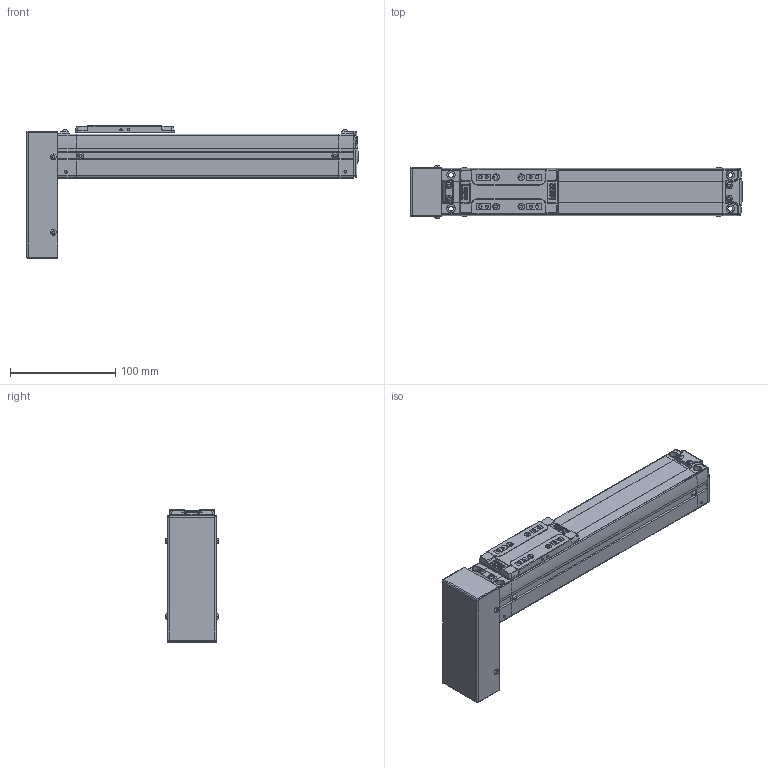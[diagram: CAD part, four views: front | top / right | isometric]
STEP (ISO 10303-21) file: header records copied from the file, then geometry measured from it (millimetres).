
FILE_DESCRIPTION(('STEP AP214'),'1');
FILE_NAME('Z:/Web/3D/SAN45/2013.ver/STP/SAN45-150PB.stp','2013-05-15T00:24:08',(' '),(' '),'Spatial InterOp 3D',' ',' ');
FILE_SCHEMA(('automotive_design'));
Length unit declared in the file: millimetre
Products named in the file (28): BODY-SAN45; REAR-SAN45; RRCV-SAN45; BHCS M3 x 6L; BHCS M3 X 6L; FRONT-SAN45; SHAFT; RN8 x 0.75; SSFX-SAN45; SLIDE-SAN45; SLCV-IM45; FHCS M3 x 6L; BTCV-SAN45
Bounding box: 316.15 x 51.13 x 126 mm (x, y, z)
Volume: 687179.9 mm3; surface area: 122071.1 mm2
Topology: 28 solids, 28 shells, 1692 faces, 4397 edges, 2843 vertices
Faces by surface type: plane 887, cylinder 589, cone 118, bspline 40, sphere 40, torus 12, extrusion 6
Entity records: 69805 total; most frequent: CARTESIAN_POINT 13320, DIRECTION 9144, ORIENTED_EDGE 8710, EDGE_CURVE 4355, AXIS2_PLACEMENT_3D 3216, VERTEX_POINT 2843, VECTOR 2712, LINE 2706
